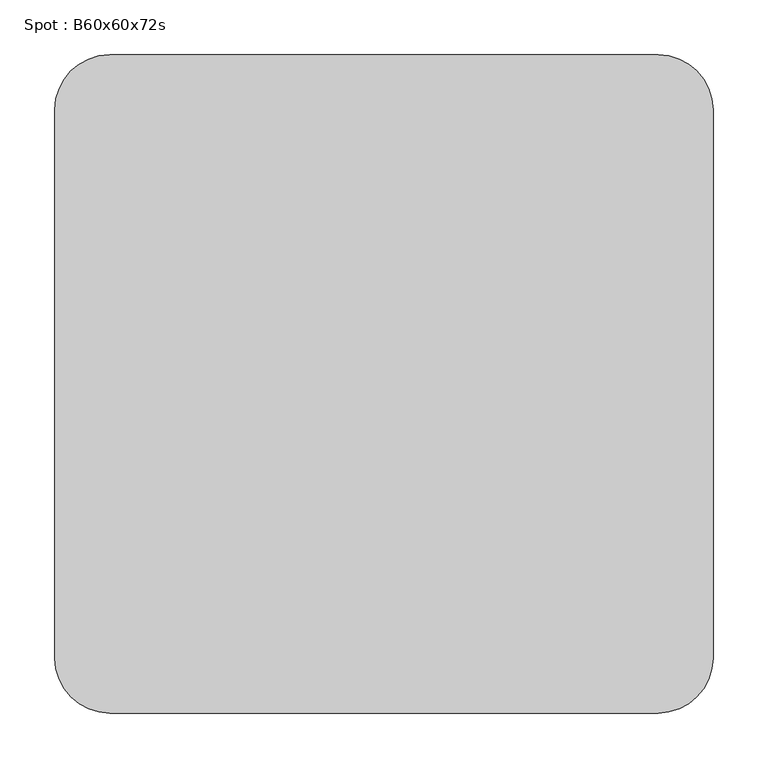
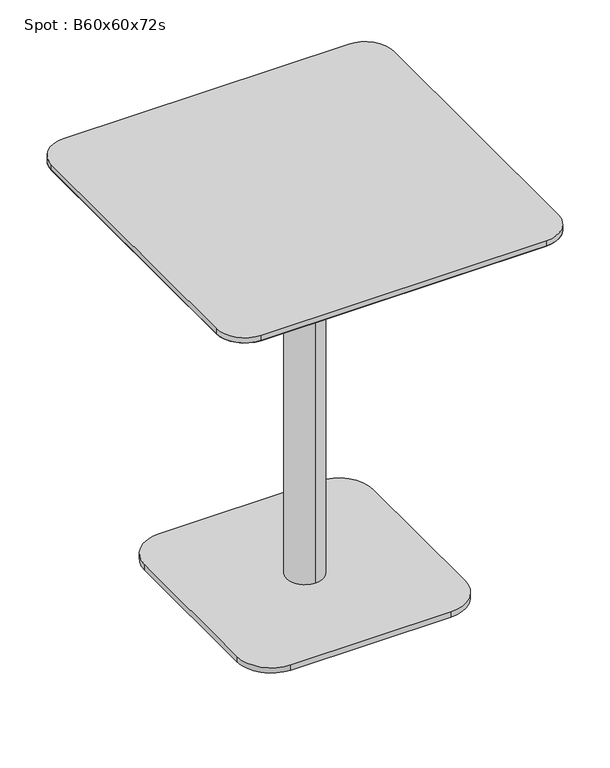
"""IFC4 building model written with IfcOpenShell, lengths in millimetres: furniture geometry, Spot : B60x60x72s."""

from ifc_helpers import new_model, si_unit, point, frame, frame_2d, origin, origin_with_axes, place, context, project, spatial, polyline, circle_curve, trimmed, segment, composite_curve, outline, extrude, source, transform, mapped, element, save
from ifc_brep_helpers import plane_surface, cylinder_surface, revolved_surface, advanced_brep


def spot_b60x60x72s_45c11713(model_context):
    return source(origin(), model_context, "Body", "SolidModel", [
        advanced_brep(
        [(-250.0, -250.0, 698.0), (-250.0, 250.0, 698.0), (250.0, 250.0, 698.0), (250.0, -250.0, 698.0), (-300.0, -250.0, 710.0), (-250.0, -300.0, 710.0), (250.0, -300.0, 710.0), (300.0, -250.0, 710.0), (300.0, 250.0, 710.0), (250.0, 300.0, 710.0), (-250.0, 300.0, 710.0), (-300.0, 250.0, 710.0)],
        [
            (0, 1),
            (1, 2),
            (2, 3),
            (3, 0),
            (4, 5, circle_curve(frame((-250.0, -250.0, 710.0), z_axis=(0.0, 0.0, 1.0), x_axis=(0.0, -1.0, 0.0)), 50.0)),
            (5, 6),
            (6, 7, circle_curve(frame((250.0, -250.0, 710.0), z_axis=(0.0, 0.0, 1.0), x_axis=(1.0, 0.0, 0.0)), 50.0)),
            (7, 8),
            (8, 9, circle_curve(frame((250.0, 250.0, 710.0), z_axis=(0.0, 0.0, 1.0), x_axis=(0.0, 1.0, 0.0)), 50.0)),
            (9, 10),
            (10, 11, circle_curve(frame((-250.0, 250.0, 710.0), z_axis=(0.0, 0.0, 1.0), x_axis=(-1.0, 0.0, 0.0)), 50.0)),
            (11, 4),
            (4, 0),
            (0, 5),
            (3, 6),
            (3, 7),
            (2, 8),
            (2, 9),
            (1, 10),
            (1, 11),
        ],
        [
            plane_surface(frame((0.0, 0.0, 698.0), z_axis=(0.0, 0.0, -1.0), x_axis=(-1.0, 0.0, 0.0))),
            plane_surface(frame((0.0, 0.0, 710.0), z_axis=(0.0, 0.0, 1.0), x_axis=(-1.0, 0.0, 0.0))),
            revolved_surface(polyline([(-250.0, -250.0, 698.0), (-250.0, -300.0, 710.0)]), (-250.0, -250.0, 698.0), (0.0, 0.0, 1.0)),
            plane_surface(frame((0.0, -300.0, 710.0), z_axis=(0.0, -0.23337295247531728, -0.9723873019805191), x_axis=(-1.0, 0.0, 0.0))),
            revolved_surface(polyline([(250.0, -250.0, 698.0), (300.0, -250.0, 710.0)]), (250.0, -250.0, 698.0), (0.0, 0.0, 1.0)),
            plane_surface(frame((300.0, 0.0, 710.0), z_axis=(0.23337295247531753, 0.0, -0.9723873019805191), x_axis=(0.0, -1.0, 0.0))),
            revolved_surface(polyline([(250.0, 250.0, 698.0), (250.0, 300.0, 710.0)]), (250.0, 250.0, 698.0), (0.0, 0.0, 1.0)),
            plane_surface(frame((0.0, 300.0, 710.0), z_axis=(0.0, 0.2333729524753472, -0.9723873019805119), x_axis=(1.0, 0.0, 0.0))),
            revolved_surface(polyline([(-250.0, 250.0, 698.0), (-300.0, 250.0, 710.0)]), (-250.0, 250.0, 698.0), (0.0, 0.0, 1.0)),
            plane_surface(frame((-300.0, 0.0, 710.0), z_axis=(-0.233372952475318, 0.0, -0.972387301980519), x_axis=(0.0, 1.0, 0.0))),
        ],
        [
            (0, [[1, 2, 3, 4]]),
            (1, [[5, 6, 7, 8, 9, 10, 11, 12]]),
            (2, [[-5, 13, 14]]),
            (3, [[-6, -14, -4, 15]]),
            (4, [[-7, -15, 16]]),
            (5, [[-8, -16, -3, 17]]),
            (6, [[-9, -17, 18]]),
            (7, [[-10, -18, -2, 19]]),
            (8, [[-11, -19, 20]]),
            (9, [[-12, -20, -1, -13]]),
        ],
    ),
        extrude(outline(composite_curve([segment(trimmed(circle_curve(frame_2d((250.0, 250.0)), 50.0), [point((250.0, 300.0))], [point((300.0, 250.0))], False, "CARTESIAN"), True, "CONTINUOUS"), segment(polyline([(300.0, 250.0), (300.0, -250.0)]), True, "CONTINUOUS"), segment(trimmed(circle_curve(frame_2d((250.0, -250.0)), 50.0), [point((300.0, -250.0))], [point((250.0, -300.0))], False, "CARTESIAN"), True, "CONTINUOUS"), segment(polyline([(250.0, -300.0), (-250.0, -300.0)]), True, "CONTINUOUS"), segment(trimmed(circle_curve(frame_2d((-250.0, -250.0)), 50.0), [point((-250.0, -300.0))], [point((-300.0, -250.0))], False, "CARTESIAN"), True, "CONTINUOUS"), segment(polyline([(-300.0, -250.0), (-300.0, 250.0)]), True, "CONTINUOUS"), segment(trimmed(circle_curve(frame_2d((-250.0, 250.0)), 50.0), [point((-300.0, 250.0))], [point((-250.0, 300.0))], False, "CARTESIAN"), True, "CONTINUOUS"), segment(polyline([(-250.0, 300.0), (250.0, 300.0)]), True, "CONTINUOUS")], self_intersect=False)), frame((0.0, 0.0, 710.0), z_axis=(0.0, 0.0, 1.0), x_axis=(1.0, 0.0, 0.0)), (0.0, 0.0, 1.0), 10.0),
        extrude(outline(composite_curve([segment(trimmed(circle_curve(frame_2d((140.0, 140.0)), 60.0), [point((140.0, 200.0))], [point((200.0, 140.0))], False, "CARTESIAN"), True, "CONTINUOUS"), segment(polyline([(200.0, 140.0), (200.0, -140.0)]), True, "CONTINUOUS"), segment(trimmed(circle_curve(frame_2d((140.0, -140.0)), 60.0), [point((200.0, -140.0))], [point((140.0, -200.0))], False, "CARTESIAN"), True, "CONTINUOUS"), segment(polyline([(140.0, -200.0), (-140.0, -200.0)]), True, "CONTINUOUS"), segment(trimmed(circle_curve(frame_2d((-140.0, -140.0)), 60.0), [point((-140.0, -200.0))], [point((-200.0, -140.0))], False, "CARTESIAN"), True, "CONTINUOUS"), segment(polyline([(-200.0, -140.0), (-200.0, 140.0)]), True, "CONTINUOUS"), segment(trimmed(circle_curve(frame_2d((-140.0, 140.0)), 60.0), [point((-200.0, 140.0))], [point((-140.0, 200.0))], False, "CARTESIAN"), True, "CONTINUOUS"), segment(polyline([(-140.0, 200.0), (140.0, 200.0)]), True, "CONTINUOUS")], self_intersect=False)), origin_with_axes(), (0.0, 0.0, 1.0), 10.0),
        advanced_brep(
        [(0.0, 32.0, 10.0), (0.0, -32.0, 10.0), (0.0, -32.0, 667.406916), (0.0, 32.0, 667.406916), (0.0, 0.0, 10.0), (0.0, 150.0, 698.0), (0.0, -150.0, 698.0), (0.0, 0.0, 698.0), (0.0, 150.0, 686.7213673), (0.0, -150.0, 686.7213673)],
        [
            (0, 1, circle_curve(frame((0.0, 0.0, 10.0), z_axis=(0.0, 0.0, 1.0), x_axis=(0.0, -1.0, 0.0)), 32.0)),
            (1, 2),
            (2, 3, circle_curve(frame((0.0, 0.0, 667.406916), z_axis=(0.0, 0.0, -1.0), x_axis=(0.0, -1.0, 0.0)), 32.0)),
            (3, 0),
            (1, 0, circle_curve(frame((0.0, 0.0, 10.0), z_axis=(0.0, 0.0, 1.0), x_axis=(0.0, -1.0, 0.0)), 32.0)),
            (3, 2, circle_curve(frame((0.0, 0.0, 667.406916), z_axis=(0.0, 0.0, -1.0), x_axis=(0.0, -1.0, 0.0)), 32.0)),
            (4, 1),
            (0, 4),
            (5, 6, circle_curve(frame((0.0, 0.0, 698.0), z_axis=(0.0, 0.0, 1.0), x_axis=(0.0, -1.0, 0.0)), 150.0)),
            (6, 7),
            (7, 5),
            (6, 5, circle_curve(frame((0.0, 0.0, 698.0), z_axis=(0.0, 0.0, 1.0), x_axis=(0.0, -1.0, 0.0)), 150.0)),
            (8, 9, circle_curve(frame((0.0, 0.0, 686.7213673), z_axis=(0.0, 0.0, 1.0), x_axis=(0.0, -1.0, 0.0)), 150.0)),
            (9, 6),
            (5, 8),
            (9, 8, circle_curve(frame((0.0, 0.0, 686.7213673), z_axis=(0.0, 0.0, 1.0), x_axis=(0.0, -1.0, 0.0)), 150.0)),
            (2, 9),
            (8, 3),
        ],
        [
            cylinder_surface(frame((0.0, 0.0, 1060.0), z_axis=(0.0, 0.0, -1.0), x_axis=(0.0, -1.0, 0.0)), 32.0),
            plane_surface(frame((0.0, 0.0, 10.0), z_axis=(0.0, 0.0, -1.0), x_axis=(0.0, -1.0, 0.0))),
            plane_surface(frame((0.0, 0.0, 698.0), z_axis=(0.0, 0.0, 1.0), x_axis=(0.0, -1.0, 0.0))),
            cylinder_surface(frame((0.0, 0.0, 1060.0), z_axis=(0.0, 0.0, -1.0), x_axis=(0.0, -1.0, 0.0)), 150.0),
            revolved_surface(polyline([(0.0, -150.0, 686.7213673), (0.0, -32.0, 667.406916)]), (0.0, 0.0, 1060.0), (0.0, 0.0, -1.0)),
        ],
        [
            (0, [[1, 2, 3, 4]]),
            (0, [[5, -4, 6, -2]]),
            (1, [[7, -1, 8]]),
            (1, [[-8, -5, -7]]),
            (2, [[9, 10, 11]]),
            (2, [[12, -11, -10]]),
            (3, [[13, 14, -9, 15]]),
            (3, [[16, -15, -12, -14]]),
            (4, [[-3, 17, -13, 18]]),
            (4, [[-6, -18, -16, -17]]),
        ],
    ),
        extrude(outline(polyline([(0.0, 0.0), (-20.0, 0.0), (-20.0, 20.0), (0.0, 20.0), (0.0, 0.0)])), origin_with_axes(), (0.0, 0.0, 1.0), 10.0),
    ])


if __name__ == "__main__":
    model = new_model("IFC4")
    model_context = context("Model", 3, world=origin())
    ifc_project = project(units=[si_unit("LENGTHUNIT", "METRE", prefix="MILLI")], contexts=[model_context])
    site = spatial("IfcSite", under=ifc_project)
    building = spatial("IfcBuilding", under=site)
    placement = place(None, origin())
    spot_b60x60x72s_shape = spot_b60x60x72s_45c11713(model_context)
    element("IfcFurniture", 1, ObjectType="Spot : B60x60x72s", at=placement, inside=building, context=model_context, shape_type="MappedRepresentation", body=[
        mapped(spot_b60x60x72s_shape, transform((0.0, 0.0, 0.0), x_axis=(1.0, 0.0, 0.0), y_axis=(0.0, 1.0, 0.0), z_axis=(0.0, 0.0, 1.0))),
    ])
    save(model, "model.ifc")
